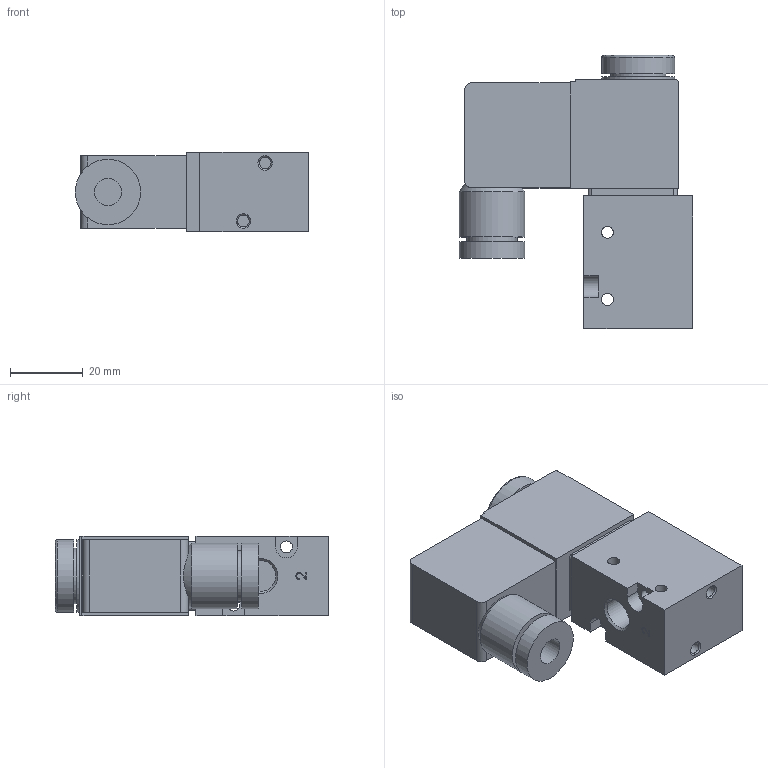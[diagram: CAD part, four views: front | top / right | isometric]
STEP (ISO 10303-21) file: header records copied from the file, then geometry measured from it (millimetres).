
FILE_DESCRIPTION( ( 'STEP AP214' ), '1' );
FILE_NAME( 'C:/Users/EMC02301/Desktop/ETA307图纸/ETA307-06E4.stp', '2026-08-19T07:22:20', ( 'License CC BY-ND 4.0' ), ( 'CADENAS' ), ' ', 'PARTsolutions', ' ' );
FILE_SCHEMA( ( 'AUTOMOTIVE_DESIGN { 1 0 10303 214 1 1 1 1 }' ) );
Length unit declared in the file: millimetre
Products named in the file (1): _ETA307-06E4_eta307_body
Bounding box: 64.3 x 75.2 x 22 mm (x, y, z)
Volume: 64733.8 mm3; surface area: 15864.8 mm2
Topology: 1 solids, 1 shells, 111 faces, 272 edges, 178 vertices
Faces by surface type: plane 57, cylinder 42, cone 11, torus 1
Full cylindrical faces by diameter (mm): 3.242 x2, 3.3 x4, 7.5 x1, 8.566 x3, 13.8 x1, 15.2 x1, 18 x2, 20 x2
Entity records: 4120 total; most frequent: CARTESIAN_POINT 642, DIRECTION 554, ORIENTED_EDGE 472, EDGE_CURVE 236, AXIS2_PLACEMENT_3D 208, VERTEX_POINT 172, EDGE_LOOP 166, LINE 138
